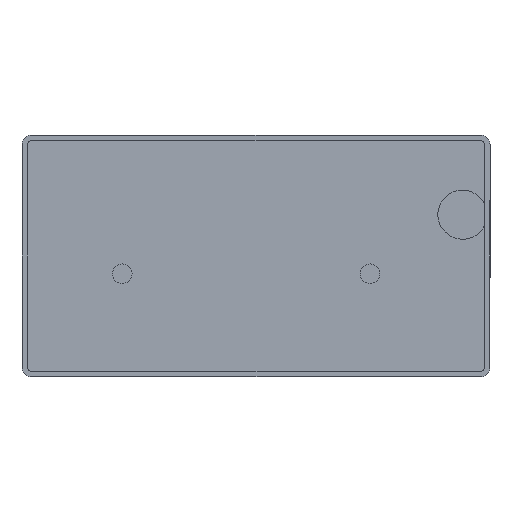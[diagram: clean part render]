
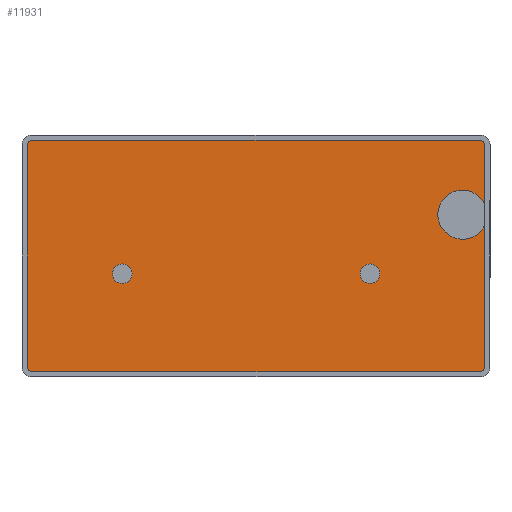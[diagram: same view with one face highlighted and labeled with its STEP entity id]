
A CAD part, front view. The second image highlights one B-rep face of the part: STEP entity #11931.
In plain terms, the highlighted planar face has unit normal (0, -1, 0).
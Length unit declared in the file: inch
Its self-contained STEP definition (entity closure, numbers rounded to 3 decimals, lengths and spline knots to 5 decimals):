
#805=FACE_BOUND('',#1913,.T.);
#806=FACE_BOUND('',#1914,.T.);
#878=PLANE('',#12828);
#1236=FACE_OUTER_BOUND('',#1912,.T.);
#1912=EDGE_LOOP('',(#8225,#8226,#8227,#8228,#8229,#8230,#8231,#8232,#8233,
#8234));
#1913=EDGE_LOOP('',(#8235));
#1914=EDGE_LOOP('',(#8236));
#2637=CIRCLE('',#12807,0.25);
#2641=CIRCLE('',#12823,0.1);
#2643=CIRCLE('',#12826,0.1);
#2645=CIRCLE('',#12829,0.045);
#2646=CIRCLE('',#12830,0.045);
#2647=CIRCLE('',#12831,0.045);
#2648=CIRCLE('',#12832,0.045);
#2824=LINE('',#16123,#3986);
#2828=LINE('',#16130,#3990);
#2857=LINE('',#16201,#4019);
#2858=LINE('',#16205,#4020);
#2859=LINE('',#16209,#4021);
#3986=VECTOR('',#13538,0.3937);
#3990=VECTOR('',#13542,0.3937);
#4019=VECTOR('',#13605,0.3937);
#4020=VECTOR('',#13608,0.3937);
#4021=VECTOR('',#13611,0.3937);
#5145=VERTEX_POINT('',#16108);
#5147=VERTEX_POINT('',#16111);
#5150=VERTEX_POINT('',#16122);
#5153=VERTEX_POINT('',#16128);
#5173=VERTEX_POINT('',#16186);
#5175=VERTEX_POINT('',#16192);
#5177=VERTEX_POINT('',#16198);
#5178=VERTEX_POINT('',#16200);
#5179=VERTEX_POINT('',#16202);
#5180=VERTEX_POINT('',#16204);
#5181=VERTEX_POINT('',#16206);
#5182=VERTEX_POINT('',#16208);
#6349=EDGE_CURVE('',#5147,#5145,#2637,.T.);
#6354=EDGE_CURVE('',#5147,#5150,#2824,.T.);
#6358=EDGE_CURVE('',#5153,#5145,#2828,.T.);
#6386=EDGE_CURVE('',#5173,#5173,#2641,.T.);
#6389=EDGE_CURVE('',#5175,#5175,#2643,.T.);
#6392=EDGE_CURVE('',#5153,#5177,#2645,.F.);
#6393=EDGE_CURVE('',#5178,#5177,#2857,.T.);
#6394=EDGE_CURVE('',#5178,#5179,#2646,.F.);
#6395=EDGE_CURVE('',#5180,#5179,#2858,.T.);
#6396=EDGE_CURVE('',#5180,#5181,#2647,.F.);
#6397=EDGE_CURVE('',#5182,#5181,#2859,.T.);
#6398=EDGE_CURVE('',#5182,#5150,#2648,.F.);
#8225=ORIENTED_EDGE('',*,*,#6349,.T.);
#8226=ORIENTED_EDGE('',*,*,#6358,.F.);
#8227=ORIENTED_EDGE('',*,*,#6392,.T.);
#8228=ORIENTED_EDGE('',*,*,#6393,.F.);
#8229=ORIENTED_EDGE('',*,*,#6394,.T.);
#8230=ORIENTED_EDGE('',*,*,#6395,.F.);
#8231=ORIENTED_EDGE('',*,*,#6396,.T.);
#8232=ORIENTED_EDGE('',*,*,#6397,.F.);
#8233=ORIENTED_EDGE('',*,*,#6398,.T.);
#8234=ORIENTED_EDGE('',*,*,#6354,.F.);
#8235=ORIENTED_EDGE('',*,*,#6386,.T.);
#8236=ORIENTED_EDGE('',*,*,#6389,.T.);
#11931=ADVANCED_FACE('',(#1236,#805,#806),#878,.F.);
#12807=AXIS2_PLACEMENT_3D('',#16112,#13524,#13525);
#12823=AXIS2_PLACEMENT_3D('',#16187,#13589,#13590);
#12826=AXIS2_PLACEMENT_3D('',#16193,#13596,#13597);
#12828=AXIS2_PLACEMENT_3D('',#16197,#13601,#13602);
#12829=AXIS2_PLACEMENT_3D('',#16199,#13603,#13604);
#12830=AXIS2_PLACEMENT_3D('',#16203,#13606,#13607);
#12831=AXIS2_PLACEMENT_3D('',#16207,#13609,#13610);
#12832=AXIS2_PLACEMENT_3D('',#16210,#13612,#13613);
#13524=DIRECTION('center_axis',(0.,1.,0.));
#13525=DIRECTION('ref_axis',(-1.,0.,0.));
#13538=DIRECTION('',(0.,0.,-1.));
#13542=DIRECTION('',(0.,0.,-1.));
#13589=DIRECTION('center_axis',(0.,1.,0.));
#13590=DIRECTION('ref_axis',(-1.,0.,0.));
#13596=DIRECTION('center_axis',(0.,1.,0.));
#13597=DIRECTION('ref_axis',(-1.,0.,0.));
#13601=DIRECTION('center_axis',(0.,1.,0.));
#13602=DIRECTION('ref_axis',(0.,0.,1.));
#13603=DIRECTION('center_axis',(0.,1.,0.));
#13604=DIRECTION('ref_axis',(0.707,0.,0.707));
#13605=DIRECTION('',(1.,0.,0.));
#13606=DIRECTION('center_axis',(0.,1.,0.));
#13607=DIRECTION('ref_axis',(-0.707,0.,0.707));
#13608=DIRECTION('',(0.,0.,1.));
#13609=DIRECTION('center_axis',(0.,1.,0.));
#13610=DIRECTION('ref_axis',(-0.707,0.,-0.707));
#13611=DIRECTION('',(-1.,0.,0.));
#13612=DIRECTION('center_axis',(0.,1.,0.));
#13613=DIRECTION('ref_axis',(0.707,0.,-0.707));
#16108=CARTESIAN_POINT('',(-0.055,0.335,-0.70103));
#16111=CARTESIAN_POINT('',(-0.055,0.335,-0.91897));
#16112=CARTESIAN_POINT('Origin',(-0.28,0.335,-0.81));
#16122=CARTESIAN_POINT('',(-0.055,0.335,-2.36));
#16123=CARTESIAN_POINT('',(-0.055,0.335,-0.615));
#16128=CARTESIAN_POINT('',(-0.055,0.335,-0.1));
#16130=CARTESIAN_POINT('',(-0.055,0.335,-0.615));
#16186=CARTESIAN_POINT('',(-3.64,0.335,-1.41));
#16187=CARTESIAN_POINT('Origin',(-3.74,0.335,-1.41));
#16192=CARTESIAN_POINT('',(-1.12,0.335,-1.41));
#16193=CARTESIAN_POINT('Origin',(-1.22,0.335,-1.41));
#16197=CARTESIAN_POINT('Origin',(-2.38,0.335,-1.23));
#16198=CARTESIAN_POINT('',(-0.1,0.335,-0.055));
#16199=CARTESIAN_POINT('Origin',(-0.1,0.335,-0.1));
#16200=CARTESIAN_POINT('',(-4.66,0.335,-0.055));
#16201=CARTESIAN_POINT('',(-3.57,0.335,-0.055));
#16202=CARTESIAN_POINT('',(-4.705,0.335,-0.1));
#16203=CARTESIAN_POINT('Origin',(-4.66,0.335,-0.1));
#16204=CARTESIAN_POINT('',(-4.705,0.335,-2.36));
#16205=CARTESIAN_POINT('',(-4.705,0.335,-1.845));
#16206=CARTESIAN_POINT('',(-4.66,0.335,-2.405));
#16207=CARTESIAN_POINT('Origin',(-4.66,0.335,-2.36));
#16208=CARTESIAN_POINT('',(-0.1,0.335,-2.405));
#16209=CARTESIAN_POINT('',(-1.19,0.335,-2.405));
#16210=CARTESIAN_POINT('Origin',(-0.1,0.335,-2.36));
